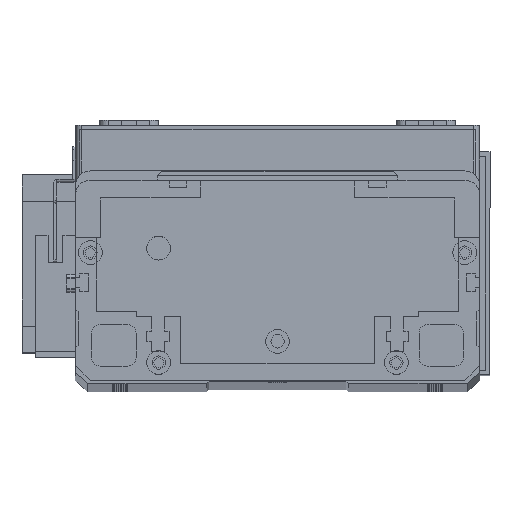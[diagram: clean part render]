
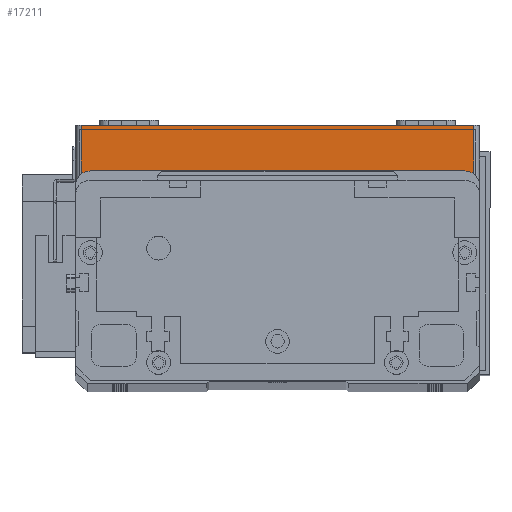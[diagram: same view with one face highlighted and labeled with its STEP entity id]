
A CAD part, top view. The second image highlights one B-rep face of the part: STEP entity #17211.
In plain terms, the highlighted planar face has unit normal (0, 0, 1) as drawn and (0, -1, 0) by its records, which use the part's own axes.
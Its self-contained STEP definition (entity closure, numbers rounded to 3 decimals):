
#387 = CARTESIAN_POINT ( 'NONE',  ( 134., 0., 19.5 ) ) ;
#1093 = DIRECTION ( 'NONE',  ( 0., 0., 1. ) ) ;
#1636 = CARTESIAN_POINT ( 'NONE',  ( 0., 0., 0. ) ) ;
#1928 = VECTOR ( 'NONE', #10959, 1000. ) ;
#2244 = LINE ( 'NONE', #7801, #26074 ) ;
#3078 = VECTOR ( 'NONE', #5338, 1000. ) ;
#5181 = ORIENTED_EDGE ( 'NONE', *, *, #19004, .T. ) ;
#5338 = DIRECTION ( 'NONE',  ( 0., 0., -1. ) ) ;
#5374 = CARTESIAN_POINT ( 'NONE',  ( 2., 0., 19.5 ) ) ;
#7255 = VERTEX_POINT ( 'NONE', #8507 ) ;
#7801 = CARTESIAN_POINT ( 'NONE',  ( 0., 0., 19.5 ) ) ;
#7900 = DIRECTION ( 'NONE',  ( 1., 0., 0. ) ) ;
#7994 = CARTESIAN_POINT ( 'NONE',  ( 2., 0., 0. ) ) ;
#8067 = LINE ( 'NONE', #1636, #1928 ) ;
#8507 = CARTESIAN_POINT ( 'NONE',  ( 2., 0., 19.5 ) ) ;
#8871 = DIRECTION ( 'NONE',  ( 0., 1., 0. ) ) ;
#10051 = EDGE_CURVE ( 'NONE', #11379, #22860, #26677, .T. ) ;
#10959 = DIRECTION ( 'NONE',  ( 1., 0., 0. ) ) ;
#11110 = PLANE ( 'NONE',  #17778 ) ;
#11379 = VERTEX_POINT ( 'NONE', #23111 ) ;
#11866 = EDGE_CURVE ( 'NONE', #7255, #19470, #16117, .T. ) ;
#15154 = VECTOR ( 'NONE', #1093, 1000. ) ;
#16117 = LINE ( 'NONE', #5374, #3078 ) ;
#17211 = ADVANCED_FACE ( 'NONE', ( #20067 ), #11110, .F. ) ;
#17778 = AXIS2_PLACEMENT_3D ( 'NONE', #22729, #8871, #24994 ) ;
#19004 = EDGE_CURVE ( 'NONE', #19470, #11379, #8067, .T. ) ;
#19470 = VERTEX_POINT ( 'NONE', #7994 ) ;
#20003 = ORIENTED_EDGE ( 'NONE', *, *, #11866, .T. ) ;
#20067 = FACE_OUTER_BOUND ( 'NONE', #21517, .T. ) ;
#21517 = EDGE_LOOP ( 'NONE', ( #22909, #20003, #5181, #21801 ) ) ;
#21801 = ORIENTED_EDGE ( 'NONE', *, *, #10051, .T. ) ;
#22729 = CARTESIAN_POINT ( 'NONE',  ( 0., 0., 19.5 ) ) ;
#22860 = VERTEX_POINT ( 'NONE', #27405 ) ;
#22909 = ORIENTED_EDGE ( 'NONE', *, *, #26520, .F. ) ;
#23111 = CARTESIAN_POINT ( 'NONE',  ( 134., 0., 0. ) ) ;
#24994 = DIRECTION ( 'NONE',  ( 0., 0., 1. ) ) ;
#26074 = VECTOR ( 'NONE', #7900, 1000. ) ;
#26520 = EDGE_CURVE ( 'NONE', #7255, #22860, #2244, .T. ) ;
#26677 = LINE ( 'NONE', #387, #15154 ) ;
#27405 = CARTESIAN_POINT ( 'NONE',  ( 134., 0., 19.5 ) ) ;
